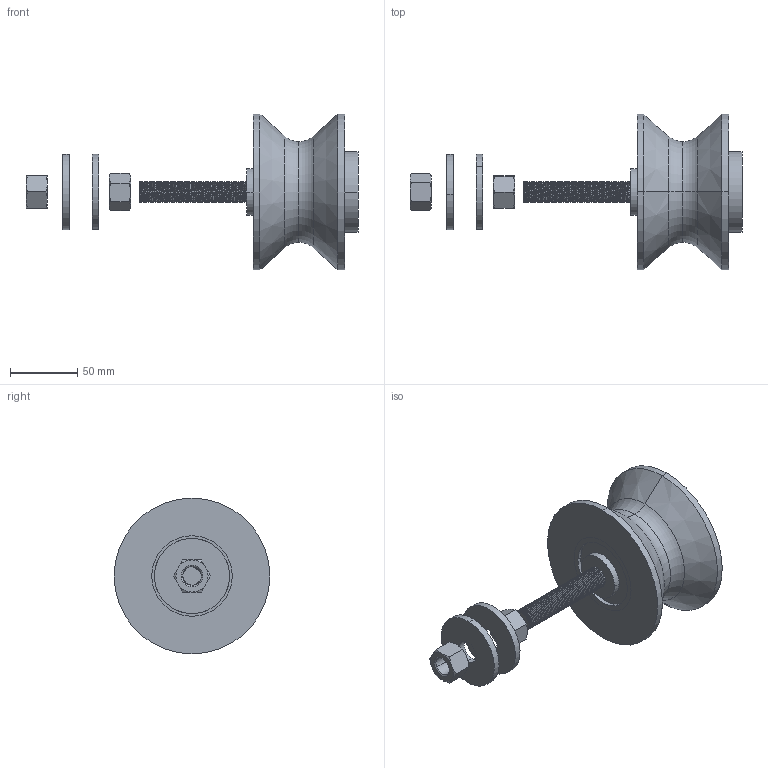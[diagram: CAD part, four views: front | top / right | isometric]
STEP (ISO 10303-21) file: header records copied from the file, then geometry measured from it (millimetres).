
FILE_DESCRIPTION (( 'STEP AP203' ), '1' );
FILE_NAME ('0005111_0_00 unico componente.STEP', '2016-10-20T14:31:32', ( '' ), ( '' ), 'SwSTEP 2.0', 'SolidWorks 2015', '' );
FILE_SCHEMA (( 'CONFIG_CONTROL_DESIGN' ));
Length unit declared in the file: millimetre
Products named in the file (5): 0005111_0_02 unico componente; 0005111_0_01 unico componente; 0005111_0_00 unico componente; plain washer xlarge grade c_iso_Washer ISO 7094 - 16; hex nut gradec_iso_Hexagon Nut ISO - 4034 - M16 - C
Assembly tree (6 placements, depth 2):
  0005111_0_00 unico componente
    0005111_0_01 unico componente
    0005111_0_02 unico componente
    plain washer xlarge grade c_iso_Washer ISO 7094 - 16  x2
    hex nut gradec_iso_Hexagon Nut ISO - 4034 - M16 - C  x2
Bounding box: 247.24 x 116 x 116 mm (x, y, z)
Volume: 570316.2 mm3; surface area: 99177.7 mm2
Topology: 6 solids, 6 shells, 226 faces, 582 edges, 372 vertices
Faces by surface type: cylinder 154, cone 36, plane 29, torus 4, bspline 3
Entity records: 13299 total; most frequent: CARTESIAN_POINT 8686, ORIENTED_EDGE 1020, DIRECTION 703, EDGE_CURVE 510, VERTEX_POINT 330, AXIS2_PLACEMENT_3D 270, EDGE_LOOP 202, FACE_OUTER_BOUND 192
